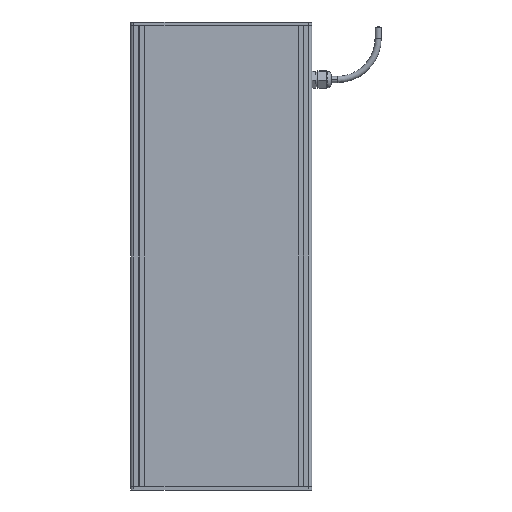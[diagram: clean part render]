
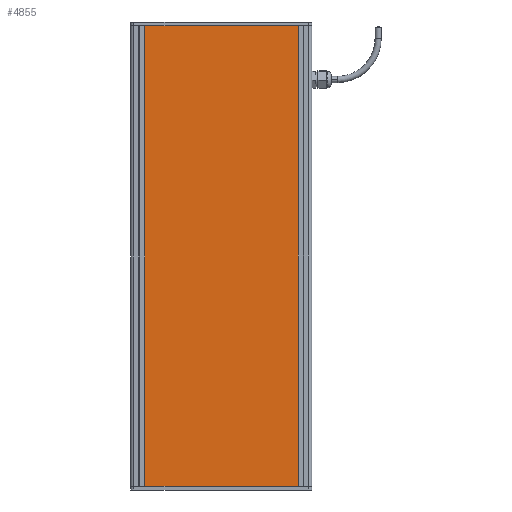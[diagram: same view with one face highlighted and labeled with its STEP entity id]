
A CAD part, front view. The second image highlights one B-rep face of the part: STEP entity #4855.
In plain terms, the highlighted planar face has unit normal (0, -1, 0) as drawn and (0, 0, 1) by its records, which use the part's own axes.
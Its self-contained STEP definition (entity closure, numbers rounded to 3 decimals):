
#181 = VERTEX_POINT ( 'NONE', #9739 ) ;
#752 = VERTEX_POINT ( 'NONE', #10405 ) ;
#1342 = DIRECTION ( 'NONE',  ( 0., -1., 0. ) ) ;
#1498 = EDGE_CURVE ( 'NONE', #752, #181, #7261, .T. ) ;
#2710 = CARTESIAN_POINT ( 'NONE',  ( -9., 0., 0. ) ) ;
#2717 = CARTESIAN_POINT ( 'NONE',  ( 0., 0., 0. ) ) ;
#3022 = EDGE_LOOP ( 'NONE', ( #15146, #9307, #10865, #9650 ) ) ;
#4081 = VECTOR ( 'NONE', #12728, 1000. ) ;
#4855 = ADVANCED_FACE ( 'NONE', ( #7698 ), #13750, .F. ) ;
#6006 = CARTESIAN_POINT ( 'NONE',  ( -209., 0., 0. ) ) ;
#7235 = VERTEX_POINT ( 'NONE', #12618 ) ;
#7261 = LINE ( 'NONE', #6006, #11626 ) ;
#7465 = DIRECTION ( 'NONE',  ( 0., 1., 0. ) ) ;
#7698 = FACE_OUTER_BOUND ( 'NONE', #3022, .T. ) ;
#7944 = CARTESIAN_POINT ( 'NONE',  ( -9., 0., 0. ) ) ;
#9091 = EDGE_CURVE ( 'NONE', #12966, #752, #10367, .T. ) ;
#9166 = CARTESIAN_POINT ( 'NONE',  ( -9., 0., 0. ) ) ;
#9300 = AXIS2_PLACEMENT_3D ( 'NONE', #2717, #13583, #12316 ) ;
#9307 = ORIENTED_EDGE ( 'NONE', *, *, #9091, .T. ) ;
#9507 = LINE ( 'NONE', #9590, #15421 ) ;
#9590 = CARTESIAN_POINT ( 'NONE',  ( -9., -600., 0. ) ) ;
#9650 = ORIENTED_EDGE ( 'NONE', *, *, #15098, .T. ) ;
#9739 = CARTESIAN_POINT ( 'NONE',  ( -209., -600., 0. ) ) ;
#10367 = LINE ( 'NONE', #7944, #4081 ) ;
#10405 = CARTESIAN_POINT ( 'NONE',  ( -209., 0., 0. ) ) ;
#10865 = ORIENTED_EDGE ( 'NONE', *, *, #1498, .T. ) ;
#11626 = VECTOR ( 'NONE', #1342, 1000. ) ;
#12316 = DIRECTION ( 'NONE',  ( -1., 0., 0. ) ) ;
#12618 = CARTESIAN_POINT ( 'NONE',  ( -9., -600., 0. ) ) ;
#12728 = DIRECTION ( 'NONE',  ( -1., 0., 0. ) ) ;
#12966 = VERTEX_POINT ( 'NONE', #9166 ) ;
#13052 = DIRECTION ( 'NONE',  ( 1., 0., 0. ) ) ;
#13583 = DIRECTION ( 'NONE',  ( 0., 0., -1. ) ) ;
#13750 = PLANE ( 'NONE',  #9300 ) ;
#14152 = EDGE_CURVE ( 'NONE', #7235, #12966, #14470, .T. ) ;
#14470 = LINE ( 'NONE', #2710, #14633 ) ;
#14633 = VECTOR ( 'NONE', #7465, 1000. ) ;
#15098 = EDGE_CURVE ( 'NONE', #181, #7235, #9507, .T. ) ;
#15146 = ORIENTED_EDGE ( 'NONE', *, *, #14152, .T. ) ;
#15421 = VECTOR ( 'NONE', #13052, 1000. ) ;
